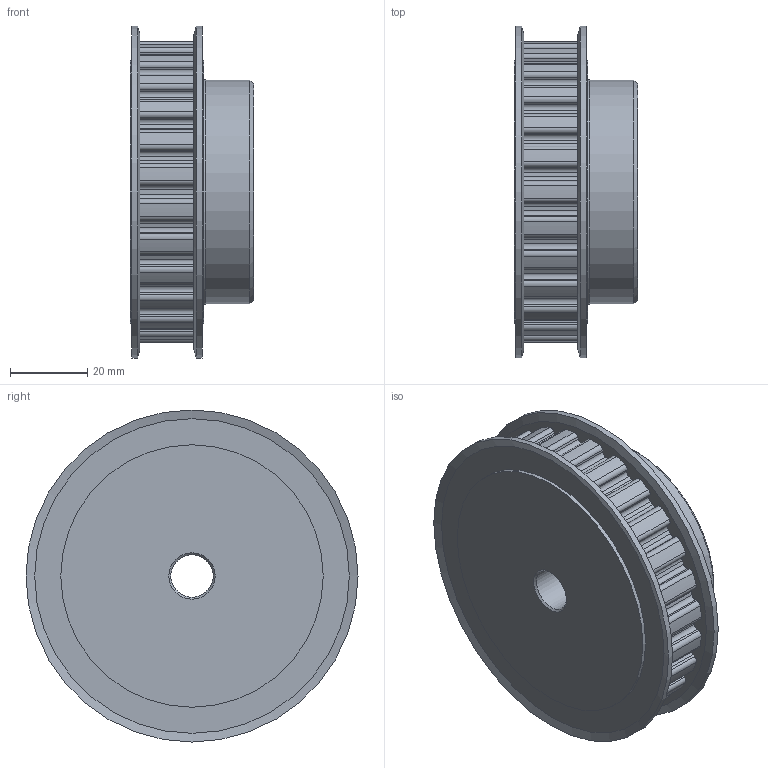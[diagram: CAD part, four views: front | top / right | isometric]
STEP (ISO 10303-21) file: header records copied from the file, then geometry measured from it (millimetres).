
FILE_DESCRIPTION(/* description */ ('PULEGGE 26 L 050 F'),/* implementation_level */ '2;1');
FILE_NAME(/* name */ 'w:\documenti\Disegni dwg\Catalogo\Pulegge\L\050\42050026.stp',/* time_stamp */ '2023-05-09T12:11:41+02:00',/* author */ ('carlo.bersi'),/* organization */ (''),/* preprocessor_version */ 'ST-DEVELOPER v19',/* originating_system */ 'Autodesk Inventor 2023',/* authorisation */ '');
FILE_SCHEMA (('CONFIG_CONTROL_DESIGN'));
Length unit declared in the file: millimetre
Products named in the file (3): 42050026; 42050026_1; 49200065
Assembly tree (3 placements, depth 2):
  42050026
    42050026_1
    49200065  x2
Bounding box: 32 x 86 x 86 mm (x, y, z)
Volume: 119509.8 mm3; surface area: 28014.7 mm2
Topology: 3 solids, 3 shells, 233 faces, 665 edges, 441 vertices
Faces by surface type: cylinder 138, plane 87, cone 7, torus 1
Full cylindrical faces by diameter (mm): 11 x1, 58 x1, 68 x4, 86 x2
Entity records: 7701 total; most frequent: DIRECTION 1401, CARTESIAN_POINT 1323, ORIENTED_EDGE 1310, EDGE_CURVE 655, AXIS2_PLACEMENT_3D 513, VERTEX_POINT 435, LINE 375, VECTOR 375
